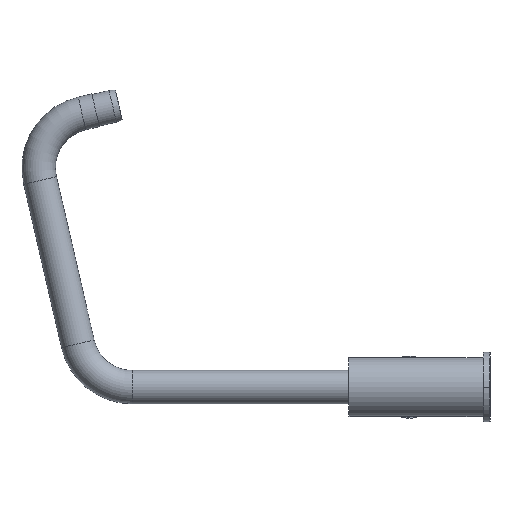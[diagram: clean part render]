
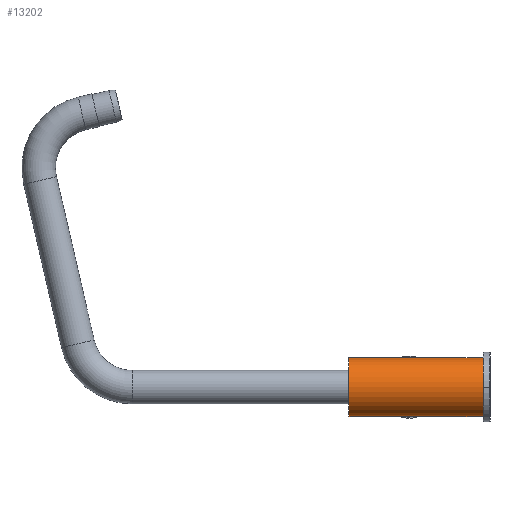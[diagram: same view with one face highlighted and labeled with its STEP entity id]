
A CAD part, left-side view. The second image highlights one B-rep face of the part: STEP entity #13202.
In plain terms, the highlighted cylindrical face has radius 21 mm (diameter 42 mm), a partial arc.
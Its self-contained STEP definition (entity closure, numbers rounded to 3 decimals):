
#1057=CARTESIAN_POINT('',(0.,2.,0.));
#1058=DIRECTION('',(0.,1.,0.));
#1059=DIRECTION('',(0.,0.,-1.));
#1060=AXIS2_PLACEMENT_3D('',#1057,#1058,#1059);
#1062=DIRECTION('',(0.,1.,0.));
#1063=VECTOR('',#1062,53.);
#1064=CARTESIAN_POINT('',(0.,2.,-21.));
#1065=LINE('',#1064,#1063);
#1066=DIRECTION('',(0.,1.,0.));
#1067=VECTOR('',#1066,34.);
#1068=CARTESIAN_POINT('',(0.,55.,-21.));
#1069=LINE('',#1068,#1067);
#1070=CARTESIAN_POINT('',(0.,96.,-21.));
#1071=CARTESIAN_POINT('',(-0.081,96.,-21.));
#1072=CARTESIAN_POINT('',(-0.243,95.994,
-20.999));
#1073=CARTESIAN_POINT('',(-0.485,95.969,
-20.995));
#1074=CARTESIAN_POINT('',(-0.725,95.927,
-20.988));
#1075=CARTESIAN_POINT('',(-0.961,95.868,
-20.978));
#1076=CARTESIAN_POINT('',(-1.194,95.793,
-20.966));
#1077=CARTESIAN_POINT('',(-1.42,95.702,
-20.952));
#1078=CARTESIAN_POINT('',(-1.64,95.595,
-20.936));
#1079=CARTESIAN_POINT('',(-1.853,95.473,
-20.918));
#1080=CARTESIAN_POINT('',(-2.056,95.336,
-20.899));
#1081=CARTESIAN_POINT('',(-2.25,95.185,
-20.879));
#1082=CARTESIAN_POINT('',(-2.433,95.02,
-20.859));
#1083=CARTESIAN_POINT('',(-2.604,94.843,
-20.838));
#1084=CARTESIAN_POINT('',(-2.762,94.655,
-20.818));
#1085=CARTESIAN_POINT('',(-2.906,94.456,
-20.798));
#1086=CARTESIAN_POINT('',(-3.036,94.248,
-20.78));
#1087=CARTESIAN_POINT('',(-3.15,94.031,
-20.762));
#1088=CARTESIAN_POINT('',(-3.25,93.807,
-20.747));
#1089=CARTESIAN_POINT('',(-3.333,93.578,
-20.734));
#1090=CARTESIAN_POINT('',(-3.4,93.344,
-20.723));
#1091=CARTESIAN_POINT('',(-3.45,93.105,
-20.715));
#1092=CARTESIAN_POINT('',(-3.484,92.865,
-20.709));
#1093=CARTESIAN_POINT('',(-3.501,92.622,
-20.706));
#1094=CARTESIAN_POINT('',(-3.501,92.378,
-20.706));
#1095=CARTESIAN_POINT('',(-3.484,92.136,
-20.709));
#1096=CARTESIAN_POINT('',(-3.45,91.895,
-20.715));
#1097=CARTESIAN_POINT('',(-3.4,91.657,
-20.723));
#1098=CARTESIAN_POINT('',(-3.333,91.422,
-20.734));
#1099=CARTESIAN_POINT('',(-3.25,91.193,
-20.747));
#1100=CARTESIAN_POINT('',(-3.15,90.969,
-20.762));
#1101=CARTESIAN_POINT('',(-3.036,90.753,
-20.78));
#1102=CARTESIAN_POINT('',(-2.906,90.544,
-20.798));
#1103=CARTESIAN_POINT('',(-2.762,90.345,
-20.818));
#1104=CARTESIAN_POINT('',(-2.604,90.157,
-20.838));
#1105=CARTESIAN_POINT('',(-2.433,89.98,
-20.859));
#1106=CARTESIAN_POINT('',(-2.25,89.816,
-20.879));
#1107=CARTESIAN_POINT('',(-2.057,89.665,
-20.899));
#1108=CARTESIAN_POINT('',(-1.853,89.528,
-20.918));
#1109=CARTESIAN_POINT('',(-1.64,89.405,
-20.936));
#1110=CARTESIAN_POINT('',(-1.42,89.298,
-20.952));
#1111=CARTESIAN_POINT('',(-1.194,89.207,
-20.966));
#1112=CARTESIAN_POINT('',(-0.961,89.132,
-20.978));
#1113=CARTESIAN_POINT('',(-0.725,89.073,
-20.988));
#1114=CARTESIAN_POINT('',(-0.485,89.031,
-20.995));
#1115=CARTESIAN_POINT('',(-0.243,89.006,
-20.999));
#1116=CARTESIAN_POINT('',(-0.081,89.,-21.));
#1117=CARTESIAN_POINT('',(0.,89.,-21.));
#1119=DIRECTION('',(0.,1.,0.));
#1120=VECTOR('',#1119,2.);
#1121=CARTESIAN_POINT('',(0.,96.,-21.));
#1122=LINE('',#1121,#1120);
#1123=CARTESIAN_POINT('',(0.,98.,0.));
#1124=DIRECTION('',(0.,1.,0.));
#1125=DIRECTION('',(0.,0.,-1.));
#1126=AXIS2_PLACEMENT_3D('',#1123,#1124,#1125);
#1128=DIRECTION('',(0.,1.,0.));
#1129=VECTOR('',#1128,53.);
#1130=CARTESIAN_POINT('',(0.,2.,21.));
#1131=LINE('',#1130,#1129);
#1421=CARTESIAN_POINT('',(0.,55.,-21.));
#1495=CARTESIAN_POINT('',(0.,55.,21.));
#1497=DIRECTION('',(0.,1.,0.));
#1498=VECTOR('',#1497,43.);
#1499=CARTESIAN_POINT('',(0.,55.,21.));
#1500=LINE('',#1499,#1498);
#9962=VERTEX_POINT('',#1421);
#9963=VERTEX_POINT('',#1495);
#9984=CARTESIAN_POINT('',(0.,98.,-21.));
#9985=CARTESIAN_POINT('',(0.,98.,21.));
#9986=VERTEX_POINT('',#9984);
#9987=VERTEX_POINT('',#9985);
#9996=CARTESIAN_POINT('',(0.,89.,-21.));
#9997=VERTEX_POINT('',#9996);
#9998=CARTESIAN_POINT('',(0.,96.,-21.));
#9999=VERTEX_POINT('',#9998);
#12499=CARTESIAN_POINT('',(0.,2.,-21.));
#12500=CARTESIAN_POINT('',(0.,2.,21.));
#12501=VERTEX_POINT('',#12499);
#12502=VERTEX_POINT('',#12500);
#13180=CARTESIAN_POINT('',(0.,0.,0.));
#13181=DIRECTION('',(0.,1.,0.));
#13182=DIRECTION('',(0.,0.,-1.));
#13183=AXIS2_PLACEMENT_3D('',#13180,#13181,#13182);
#13184=CYLINDRICAL_SURFACE('',#13183,21.);
#13185=ORIENTED_EDGE('',*,*,#13173,.F.);
#13187=ORIENTED_EDGE('',*,*,#13186,.T.);
#13189=ORIENTED_EDGE('',*,*,#13188,.T.);
#13191=ORIENTED_EDGE('',*,*,#13190,.F.);
#13193=ORIENTED_EDGE('',*,*,#13192,.T.);
#13195=ORIENTED_EDGE('',*,*,#13194,.T.);
#13197=ORIENTED_EDGE('',*,*,#13196,.F.);
#13199=ORIENTED_EDGE('',*,*,#13198,.F.);
#13200=EDGE_LOOP('',(#13185,#13187,#13189,#13191,#13193,#13195,#13197,#13199));
#13201=FACE_OUTER_BOUND('',#13200,.F.);
#13202=ADVANCED_FACE('',(#13201),#13184,.T.);
#1061=CIRCLE('',#1060,21.);
#1118=B_SPLINE_CURVE_WITH_KNOTS('',3,(#1070,#1071,#1072,#1073,#1074,#1075,#1076,
#1077,#1078,#1079,#1080,#1081,#1082,#1083,#1084,#1085,#1086,#1087,#1088,#1089,
#1090,#1091,#1092,#1093,#1094,#1095,#1096,#1097,#1098,#1099,#1100,#1101,#1102,
#1103,#1104,#1105,#1106,#1107,#1108,#1109,#1110,#1111,#1112,#1113,#1114,#1115,
#1116,#1117),.UNSPECIFIED.,.F.,.F.,(4,1,1,1,1,1,1,1,1,1,1,1,1,1,1,1,1,1,1,1,1,1,
1,1,1,1,1,1,1,1,1,1,1,1,1,1,1,1,1,1,1,1,1,1,1,4),(0.,0.022,
0.044,0.067,0.089,0.111,
0.133,0.156,0.178,0.2,0.222,
0.244,0.267,0.289,0.311,
0.333,0.356,0.378,0.4,0.422,
0.444,0.467,0.489,0.511,
0.533,0.556,0.578,0.6,0.622,
0.644,0.667,0.689,0.711,
0.733,0.756,0.778,0.8,0.822,
0.844,0.867,0.889,0.911,
0.933,0.956,0.978,1.),.UNSPECIFIED.);
#1127=CIRCLE('',#1126,21.);
#13173=EDGE_CURVE('',#12501,#12502,#1061,.T.);
#13186=EDGE_CURVE('',#12501,#9962,#1065,.T.);
#13188=EDGE_CURVE('',#9962,#9997,#1069,.T.);
#13190=EDGE_CURVE('',#9999,#9997,#1118,.T.);
#13192=EDGE_CURVE('',#9999,#9986,#1122,.T.);
#13194=EDGE_CURVE('',#9986,#9987,#1127,.T.);
#13196=EDGE_CURVE('',#9963,#9987,#1500,.T.);
#13198=EDGE_CURVE('',#12502,#9963,#1131,.T.);
